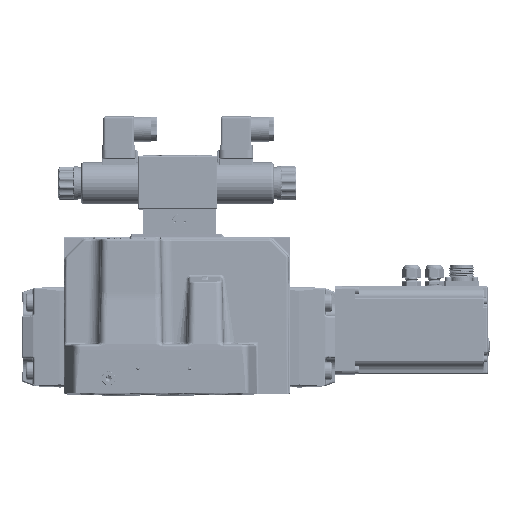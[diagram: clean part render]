
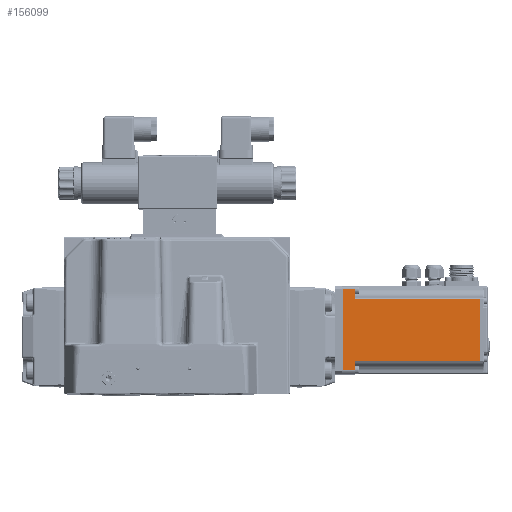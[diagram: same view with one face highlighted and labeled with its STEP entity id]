
A CAD part, top view. The second image highlights one B-rep face of the part: STEP entity #156099.
In plain terms, the highlighted planar face has unit normal (0, 0.009, 1).
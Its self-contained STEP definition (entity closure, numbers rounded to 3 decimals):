
#17802=PLANE('',#187203);
#23366=FACE_OUTER_BOUND('',#31118,.T.);
#31118=EDGE_LOOP('',(#84443,#84444,#84445,#84446,#84447,#84448,#84449,#84450));
#45365=LINE('',#593776,#54580);
#45366=LINE('',#593779,#54581);
#45367=LINE('',#593781,#54582);
#45368=LINE('',#593783,#54583);
#45369=LINE('',#593785,#54584);
#45370=LINE('',#593787,#54585);
#45371=LINE('',#593789,#54586);
#45372=LINE('',#593791,#54587);
#54580=VECTOR('',#216256,1.);
#54581=VECTOR('',#216257,1.);
#54582=VECTOR('',#216258,1.);
#54583=VECTOR('',#216259,1.);
#54584=VECTOR('',#216260,1.);
#54585=VECTOR('',#216261,1.);
#54586=VECTOR('',#216262,1.);
#54587=VECTOR('',#216263,1.);
#84443=ORIENTED_EDGE('',*,*,#109117,.T.);
#84444=ORIENTED_EDGE('',*,*,#109118,.T.);
#84445=ORIENTED_EDGE('',*,*,#109119,.T.);
#84446=ORIENTED_EDGE('',*,*,#109120,.F.);
#84447=ORIENTED_EDGE('',*,*,#109121,.F.);
#84448=ORIENTED_EDGE('',*,*,#109122,.T.);
#84449=ORIENTED_EDGE('',*,*,#109123,.T.);
#84450=ORIENTED_EDGE('',*,*,#109124,.T.);
#109117=EDGE_CURVE('',#176387,#176388,#45365,.T.);
#109118=EDGE_CURVE('',#176388,#176389,#45366,.T.);
#109119=EDGE_CURVE('',#176389,#176390,#45367,.T.);
#109120=EDGE_CURVE('',#176391,#176390,#45368,.T.);
#109121=EDGE_CURVE('',#176392,#176391,#45369,.T.);
#109122=EDGE_CURVE('',#176392,#176393,#45370,.T.);
#109123=EDGE_CURVE('',#176393,#176394,#45371,.T.);
#109124=EDGE_CURVE('',#176394,#176387,#45372,.T.);
#156099=ADVANCED_FACE('',(#23366),#17802,.F.);
#176387=VERTEX_POINT('',#593777);
#176388=VERTEX_POINT('',#593778);
#176389=VERTEX_POINT('',#593780);
#176390=VERTEX_POINT('',#593782);
#176391=VERTEX_POINT('',#593784);
#176392=VERTEX_POINT('',#593786);
#176393=VERTEX_POINT('',#593788);
#176394=VERTEX_POINT('',#593790);
#187203=AXIS2_PLACEMENT_3D('',#593792,#216264,#216265);
#216256=DIRECTION('',(0.,1.,-0.009));
#216257=DIRECTION('',(-1.,0.,0.));
#216258=DIRECTION('',(0.,1.,-0.009));
#216259=DIRECTION('',(1.,0.,0.));
#216260=DIRECTION('',(0.,1.,-0.009));
#216261=DIRECTION('',(1.,0.,0.));
#216262=DIRECTION('',(0.,1.,-0.009));
#216263=DIRECTION('',(1.,0.,0.));
#216264=DIRECTION('',(0.,-0.009,-1.));
#216265=DIRECTION('',(0.,-1.,0.009));
#593776=CARTESIAN_POINT('',(209.98,6.691,227.35));
#593777=CARTESIAN_POINT('',(209.98,-55.817,227.896));
#593778=CARTESIAN_POINT('',(209.98,-1.798,227.425));
#593779=CARTESIAN_POINT('',(99.98,-1.798,227.425));
#593780=CARTESIAN_POINT('',(99.98,-1.798,227.425));
#593781=CARTESIAN_POINT('',(99.98,6.691,227.35));
#593782=CARTESIAN_POINT('',(99.98,6.691,227.35));
#593783=CARTESIAN_POINT('',(89.98,6.691,227.35));
#593784=CARTESIAN_POINT('',(89.98,6.691,227.35));
#593785=CARTESIAN_POINT('',(89.98,6.691,227.35));
#593786=CARTESIAN_POINT('',(89.98,-64.306,227.97));
#593787=CARTESIAN_POINT('',(89.98,-64.306,227.97));
#593788=CARTESIAN_POINT('',(99.98,-64.306,227.97));
#593789=CARTESIAN_POINT('',(99.98,6.691,227.35));
#593790=CARTESIAN_POINT('',(99.98,-55.817,227.896));
#593791=CARTESIAN_POINT('',(89.98,-55.817,227.896));
#593792=CARTESIAN_POINT('',(89.98,6.691,227.35));
